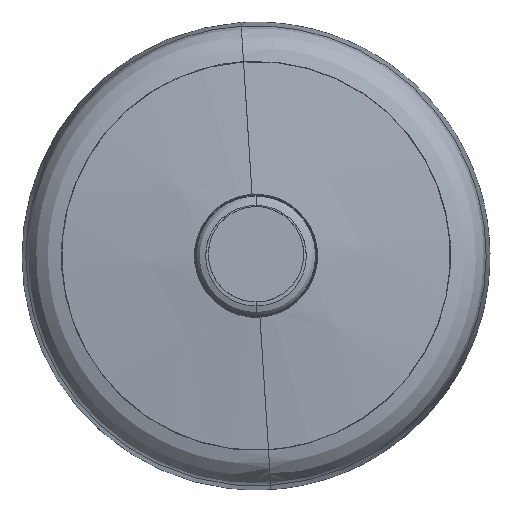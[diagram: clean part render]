
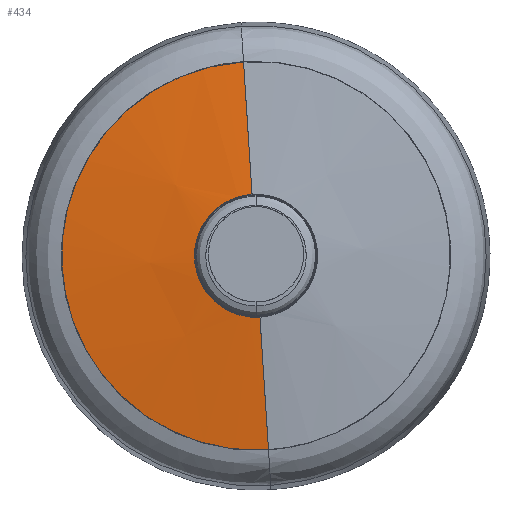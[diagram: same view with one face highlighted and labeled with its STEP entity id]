
A CAD part, top view. The second image highlights one B-rep face of the part: STEP entity #434.
In plain terms, the highlighted free-form (B-spline) face has degree [2, 1] with [9, 2] control points.
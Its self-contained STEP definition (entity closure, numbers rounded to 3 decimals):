
#42=B_SPLINE_CURVE_WITH_KNOTS('',1,(#6088,#6089),.UNSPECIFIED.,.F.,.F.,
(2,2),(0.,168.462),.UNSPECIFIED.);
#43=B_SPLINE_CURVE_WITH_KNOTS('',1,(#6090,#6091),.UNSPECIFIED.,.F.,.F.,
(2,2),(0.,168.462),.UNSPECIFIED.);
#157=(
BOUNDED_SURFACE()
B_SPLINE_SURFACE(2,1,((#5932,#5933),(#5934,#5935),(#5936,#5937),(#5938,
#5939),(#5940,#5941),(#5942,#5943),(#5944,#5945),(#5946,#5947),(#5948,#5949)),
 .UNSPECIFIED.,.T.,.F.,.F.)
B_SPLINE_SURFACE_WITH_KNOTS((3,2,2,2,3),(2,2),(0.,423.399,846.799,
1270.198,1693.598),(0.,271.029),.UNSPECIFIED.)
GEOMETRIC_REPRESENTATION_ITEM()
RATIONAL_B_SPLINE_SURFACE(((1.,1.),(0.707,0.707),
(1.,1.),(0.707,0.707),(1.,1.),(0.707,
0.707),(1.,1.),(0.707,0.707),(1.,1.)))
REPRESENTATION_ITEM('')
SURFACE()
);
#434=ADVANCED_FACE('',(#620),#157,.T.);
#620=FACE_OUTER_BOUND('',#809,.T.);
#809=EDGE_LOOP('',(#1186,#1187,#1188,#1189));
#1186=ORIENTED_EDGE('',*,*,#1786,.F.);
#1187=ORIENTED_EDGE('',*,*,#1790,.T.);
#1188=ORIENTED_EDGE('',*,*,#1787,.F.);
#1189=ORIENTED_EDGE('',*,*,#1813,.F.);
#1786=EDGE_CURVE('',#2412,#2408,#42,.T.);
#1787=EDGE_CURVE('',#2407,#2411,#43,.T.);
#1790=EDGE_CURVE('',#2412,#2411,#2143,.T.);
#1813=EDGE_CURVE('',#2408,#2407,#2157,.T.);
#2143=(
BOUNDED_CURVE()
B_SPLINE_CURVE(2,(#6099,#6100,#6101,#6102,#6103),.UNSPECIFIED.,.F.,.F.)
B_SPLINE_CURVE_WITH_KNOTS((3,2,3),(-243.473,-121.737,
0.),.UNSPECIFIED.)
CURVE()
GEOMETRIC_REPRESENTATION_ITEM()
RATIONAL_B_SPLINE_CURVE((1.,0.707,1.,0.707,1.))
REPRESENTATION_ITEM('')
);
#2157=(
BOUNDED_CURVE()
B_SPLINE_CURVE(2,(#6183,#6184,#6185,#6186,#6187),.UNSPECIFIED.,.F.,.F.)
B_SPLINE_CURVE_WITH_KNOTS((3,2,3),(0.,384.907,769.814),
 .UNSPECIFIED.)
CURVE()
GEOMETRIC_REPRESENTATION_ITEM()
RATIONAL_B_SPLINE_CURVE((1.,0.707,1.,0.707,1.))
REPRESENTATION_ITEM('')
);
#2407=VERTEX_POINT('',#6037);
#2408=VERTEX_POINT('',#6038);
#2411=VERTEX_POINT('',#6041);
#2412=VERTEX_POINT('',#6042);
#5932=CARTESIAN_POINT('',(0.,0.,-1046.532));
#5933=CARTESIAN_POINT('',(268.988,17.306,-1074.863));
#5934=CARTESIAN_POINT('',(0.,0.,-1046.532));
#5935=CARTESIAN_POINT('',(286.294,-251.683,-1074.863));
#5936=CARTESIAN_POINT('',(0.,0.,-1046.532));
#5937=CARTESIAN_POINT('',(17.306,-268.988,-1074.863));
#5938=CARTESIAN_POINT('',(0.,0.,-1046.532));
#5939=CARTESIAN_POINT('',(-251.683,-286.294,-1074.863));
#5940=CARTESIAN_POINT('',(0.,0.,-1046.532));
#5941=CARTESIAN_POINT('',(-268.988,-17.306,-1074.863));
#5942=CARTESIAN_POINT('',(0.,0.,-1046.532));
#5943=CARTESIAN_POINT('',(-286.294,251.683,-1074.863));
#5944=CARTESIAN_POINT('',(0.,0.,-1046.532));
#5945=CARTESIAN_POINT('',(-17.306,268.988,-1074.863));
#5946=CARTESIAN_POINT('',(0.,0.,-1046.532));
#5947=CARTESIAN_POINT('',(251.683,286.294,-1074.863));
#5948=CARTESIAN_POINT('',(0.,0.,-1046.532));
#5949=CARTESIAN_POINT('',(268.988,17.306,-1074.863));
#6037=CARTESIAN_POINT('',(-15.732,244.534,-1072.287));
#6038=CARTESIAN_POINT('',(15.732,-244.534,-1072.287));
#6041=CARTESIAN_POINT('',(-4.976,77.34,-1054.678));
#6042=CARTESIAN_POINT('',(4.976,-77.34,-1054.678));
#6088=CARTESIAN_POINT('',(4.976,-77.34,-1054.678));
#6089=CARTESIAN_POINT('',(15.732,-244.534,-1072.287));
#6090=CARTESIAN_POINT('',(-15.732,244.534,-1072.287));
#6091=CARTESIAN_POINT('',(-4.976,77.34,-1054.678));
#6099=CARTESIAN_POINT('',(4.976,-77.34,-1054.678));
#6100=CARTESIAN_POINT('',(-72.364,-82.316,-1054.678));
#6101=CARTESIAN_POINT('',(-77.34,-4.976,-1054.678));
#6102=CARTESIAN_POINT('',(-82.316,72.364,-1054.678));
#6103=CARTESIAN_POINT('',(-4.976,77.34,-1054.678));
#6183=CARTESIAN_POINT('',(15.732,-244.534,-1072.287));
#6184=CARTESIAN_POINT('',(-228.802,-260.266,-1072.287));
#6185=CARTESIAN_POINT('',(-244.534,-15.732,-1072.287));
#6186=CARTESIAN_POINT('',(-260.266,228.802,-1072.287));
#6187=CARTESIAN_POINT('',(-15.732,244.534,-1072.287));
